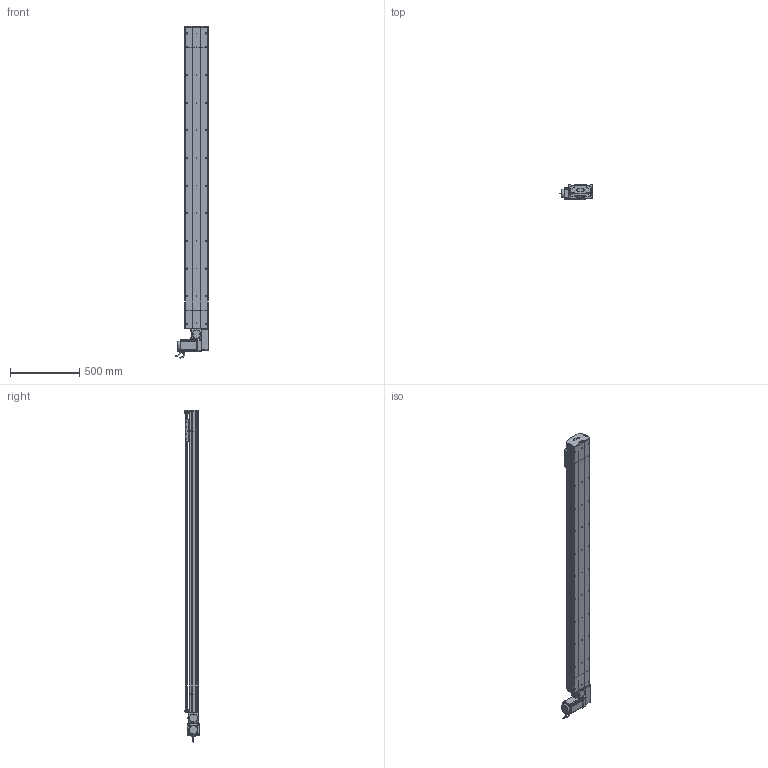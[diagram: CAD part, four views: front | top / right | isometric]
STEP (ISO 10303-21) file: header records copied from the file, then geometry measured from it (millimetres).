
FILE_DESCRIPTION (( 'STEP AP214' ), '1' );
FILE_NAME ('D17 TBH LH S1900.STEP', '2010-06-30T08:20:21', ( 'Christophe Gaillard' ), ( 'SGA' ), 'SwSTEP 2.0', 'SolidWorks 2010', '' );
FILE_SCHEMA (( 'AUTOMOTIVE_DESIGN' ));
Length unit declared in the file: millimetre
Products named in the file (40): Conecteur_Default; Conecteur2_Default; corps 90BLDC125A-640; avant 90BLDC125A-640; Moteur motionking 90BLDC125A-640; codeur 90BLDC125-640; vis M5 L16_Default; vis M5 L70_Default; vis M5 L12_Default; Plaque racord D17_Default; guide D17; Vis M5 L16-2_Default; vis M5 L25_Default; corp tail D17B+100_Default; Tail D17B+100_Default; Chariot D17; chariot D17S_Default; tete d''axe poulie D17B; vis M5 L8 90°_Default; couvercle D17B_Default; Couroie tail D17B_Default; Rail D17B; poulie tail_Default; plaque de  bout tail D17B_Default; D17 TBH LH S1900; corp D17B 1900_Default; Couroie+ rail D17 Course 1900 ; course 1900 D17B_Default; corpl head D17 _Default; Head LH D17B_Default; couvercle D17B course L1900_Default; plaque de  bout head D17B LH_Default; couvercle D17B head_Default; poulie head_Default; vis M5 L5_Default; cache D17_Default; Arbre+rail head D17B; Renvoi LH_Default; couroie head D17_Default; cache arbre D17_Default
Assembly tree (70 placements, depth 4):
  D17 TBH LH S1900
    Tail D17B+100_Default
      vis M5 L12_Default  x4
      vis M5 L25_Default  x2
      vis M5 L8 90°_Default  x2
      corp tail D17B+100_Default
      plaque de  bout tail D17B_Default
      couvercle D17B_Default
      tete d''axe poulie D17B
      Rail D17B
      poulie tail_Default
      Couroie tail D17B_Default
    Head LH D17B_Default
      vis M5 L12_Default  x8
      vis M5 L70_Default  x4
      corpl head D17 _Default
      Vis M5 L16-2_Default  x4
      Arbre+rail head D17B
      cache arbre D17_Default
      cache D17_Default  x2
      poulie head_Default
      vis M5 L16_Default  x2
      vis M5 L5_Default  x4
      couroie head D17_Default
      couvercle D17B head_Default
      Plaque racord D17_Default
      vis M5 L25_Default  x2
      plaque de  bout head D17B LH_Default
      Moteur motionking 90BLDC125A-640
        corps 90BLDC125A-640
        avant 90BLDC125A-640
        Conecteur2_Default
        Conecteur_Default
        codeur 90BLDC125-640
      Renvoi LH_Default
    chariot D17S_Default
      Chariot D17
      vis M5 L12_Default  x4
      guide D17  x2
    course 1900 D17B_Default
      couvercle D17B course L1900_Default
      corp D17B 1900_Default
      Couroie+ rail D17 Course 1900 
Bounding box: 245.2 x 105.65 x 2400.95 mm (x, y, z)
Volume: 13770081 mm3; surface area: 3945903.4 mm2
Topology: 94 solids, 94 shells, 2717 faces, 6883 edges, 4430 vertices
Faces by surface type: plane 1611, cylinder 793, bspline 136, cone 88, torus 85, sphere 4
Entity records: 85474 total; most frequent: CARTESIAN_POINT 25183, ORIENTED_EDGE 10538, DIRECTION 9990, EDGE_CURVE 5269, VECTOR 3488, LINE 3488, VERTEX_POINT 3454, AXIS2_PLACEMENT_3D 3251
